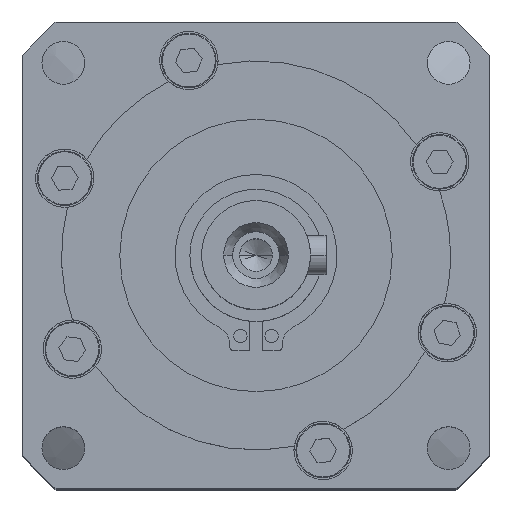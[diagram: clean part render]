
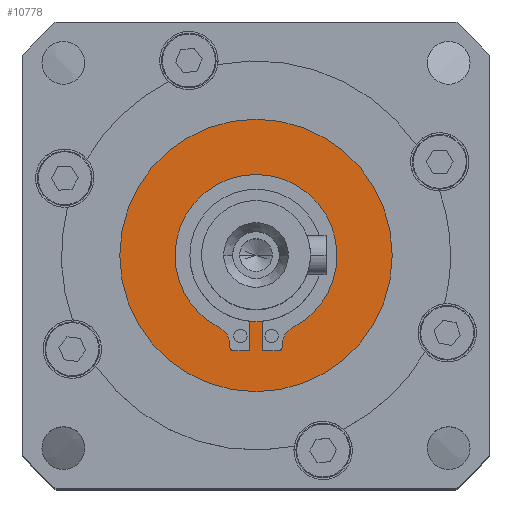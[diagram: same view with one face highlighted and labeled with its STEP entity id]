
A CAD part, top view. The second image highlights one B-rep face of the part: STEP entity #10778.
In plain terms, the highlighted planar face has unit normal (0, 0, 1).
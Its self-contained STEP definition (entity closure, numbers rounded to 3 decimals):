
#607 = VERTEX_POINT ( 'NONE', #50801 ) ;
#1131 = VERTEX_POINT ( 'NONE', #7844 ) ;
#1490 = EDGE_CURVE ( 'NONE', #27664, #27565, #51751, .T. ) ;
#1606 = EDGE_CURVE ( 'NONE', #49962, #17431, #15683, .T. ) ;
#2491 = CARTESIAN_POINT ( 'NONE',  ( 0., 0., -1. ) ) ;
#2612 = EDGE_CURVE ( 'NONE', #35117, #49962, #28156, .T. ) ;
#2907 = CARTESIAN_POINT ( 'NONE',  ( 0., 0., -1. ) ) ;
#3063 = EDGE_CURVE ( 'NONE', #15275, #45962, #26241, .T. ) ;
#3856 = VERTEX_POINT ( 'NONE', #45359 ) ;
#4069 = CARTESIAN_POINT ( 'NONE',  ( 4.716, -9.269, -1. ) ) ;
#4182 = DIRECTION ( 'NONE',  ( -1., 0., 0. ) ) ;
#4289 = DIRECTION ( 'NONE',  ( 0., 0., 1. ) ) ;
#4348 = VERTEX_POINT ( 'NONE', #13745 ) ;
#4349 = CARTESIAN_POINT ( 'NONE',  ( 0., 0., -1. ) ) ;
#4474 = AXIS2_PLACEMENT_3D ( 'NONE', #2491, #30417, #6512 ) ;
#4655 = ORIENTED_EDGE ( 'NONE', *, *, #1490, .T. ) ;
#5163 = CIRCLE ( 'NONE', #9509, 17.5 ) ;
#5442 = CARTESIAN_POINT ( 'NONE',  ( -0.85, 0., -1. ) ) ;
#6428 = EDGE_CURVE ( 'NONE', #28895, #15275, #50129, .T. ) ;
#6512 = DIRECTION ( 'NONE',  ( -1., 0., 0. ) ) ;
#6939 = DIRECTION ( 'NONE',  ( -1., 0., 0. ) ) ;
#7603 = CARTESIAN_POINT ( 'NONE',  ( 3.35, -11.497, -1. ) ) ;
#7718 = CARTESIAN_POINT ( 'NONE',  ( 17.5, 0., -1. ) ) ;
#7844 = CARTESIAN_POINT ( 'NONE',  ( -4.716, -9.269, -1. ) ) ;
#8493 = CARTESIAN_POINT ( 'NONE',  ( -2.85, -11.757, -1. ) ) ;
#8513 = CARTESIAN_POINT ( 'NONE',  ( 3.35, 0., -1. ) ) ;
#8585 = DIRECTION ( 'NONE',  ( 1., 0., 0. ) ) ;
#8789 = CIRCLE ( 'NONE', #44361, 2.5 ) ;
#9509 = AXIS2_PLACEMENT_3D ( 'NONE', #37870, #13749, #41965 ) ;
#9731 = FACE_OUTER_BOUND ( 'NONE', #38376, .T. ) ;
#10277 = ORIENTED_EDGE ( 'NONE', *, *, #28766, .F. ) ;
#10498 = CIRCLE ( 'NONE', #47524, 0.5 ) ;
#10617 = CARTESIAN_POINT ( 'NONE',  ( -2.85, -12.257, -1. ) ) ;
#10778 = ADVANCED_FACE ( 'NONE', ( #40548, #9731 ), #18251, .F. ) ;
#10957 = VECTOR ( 'NONE', #17358, 1000. ) ;
#12038 = CARTESIAN_POINT ( 'NONE',  ( 2.85, -11.757, -1. ) ) ;
#12443 = EDGE_CURVE ( 'NONE', #41873, #3856, #21486, .T. ) ;
#12481 = DIRECTION ( 'NONE',  ( -1., 0., 0. ) ) ;
#12492 = DIRECTION ( 'NONE',  ( 0., 1., 0. ) ) ;
#13745 = CARTESIAN_POINT ( 'NONE',  ( -3.35, -11.497, -1. ) ) ;
#13749 = DIRECTION ( 'NONE',  ( 0., 0., 1. ) ) ;
#14287 = EDGE_CURVE ( 'NONE', #50091, #25168, #20727, .T. ) ;
#14435 = CIRCLE ( 'NONE', #51099, 10.4 ) ;
#15275 = VERTEX_POINT ( 'NONE', #4069 ) ;
#15316 = DIRECTION ( 'NONE',  ( 0., -1., 0. ) ) ;
#15683 = LINE ( 'NONE', #25941, #46696 ) ;
#15972 = DIRECTION ( 'NONE',  ( -1., 0., 0. ) ) ;
#15986 = CARTESIAN_POINT ( 'NONE',  ( -17.5, 0., -1. ) ) ;
#16084 = CARTESIAN_POINT ( 'NONE',  ( 0., 0., -1. ) ) ;
#16106 = CARTESIAN_POINT ( 'NONE',  ( 0.85, 0., -1. ) ) ;
#17358 = DIRECTION ( 'NONE',  ( 0., 1., 0. ) ) ;
#17431 = VERTEX_POINT ( 'NONE', #48743 ) ;
#18207 = VECTOR ( 'NONE', #49736, 1000. ) ;
#18251 = PLANE ( 'NONE',  #4474 ) ;
#18399 = ORIENTED_EDGE ( 'NONE', *, *, #6428, .F. ) ;
#18997 = CARTESIAN_POINT ( 'NONE',  ( -3.35, -11.757, -1. ) ) ;
#19623 = AXIS2_PLACEMENT_3D ( 'NONE', #4349, #4289, #4182 ) ;
#20097 = DIRECTION ( 'NONE',  ( -1., 0., 0. ) ) ;
#20230 = EDGE_CURVE ( 'NONE', #17431, #607, #10498, .T. ) ;
#20305 = CARTESIAN_POINT ( 'NONE',  ( 0.85, -8.457, -1. ) ) ;
#20306 = ORIENTED_EDGE ( 'NONE', *, *, #28475, .F. ) ;
#20353 = CARTESIAN_POINT ( 'NONE',  ( 0., -12.257, -1. ) ) ;
#20727 = CIRCLE ( 'NONE', #23866, 0.5 ) ;
#21321 = ORIENTED_EDGE ( 'NONE', *, *, #29721, .F. ) ;
#21486 = LINE ( 'NONE', #5442, #10957 ) ;
#21735 = CARTESIAN_POINT ( 'NONE',  ( -5.85, -11.497, -1. ) ) ;
#21793 = DIRECTION ( 'NONE',  ( 0., 0., 1. ) ) ;
#21927 = DIRECTION ( 'NONE',  ( -1., 0., 0. ) ) ;
#22282 = DIRECTION ( 'NONE',  ( 0., 0., -1. ) ) ;
#23189 = LINE ( 'NONE', #8513, #24443 ) ;
#23303 = EDGE_CURVE ( 'NONE', #25168, #41873, #30294, .T. ) ;
#23698 = CARTESIAN_POINT ( 'NONE',  ( 5.85, -11.497, -1. ) ) ;
#23866 = AXIS2_PLACEMENT_3D ( 'NONE', #8493, #36529, #12481 ) ;
#23973 = ORIENTED_EDGE ( 'NONE', *, *, #45563, .F. ) ;
#24443 = VECTOR ( 'NONE', #12492, 1000. ) ;
#25168 = VERTEX_POINT ( 'NONE', #10617 ) ;
#25775 = DIRECTION ( 'NONE',  ( -1., 0., 0. ) ) ;
#25880 = EDGE_CURVE ( 'NONE', #27565, #27664, #5163, .T. ) ;
#25893 = ORIENTED_EDGE ( 'NONE', *, *, #3063, .F. ) ;
#25941 = CARTESIAN_POINT ( 'NONE',  ( 0., -12.257, -1. ) ) ;
#26033 = CARTESIAN_POINT ( 'NONE',  ( 0.85, -12.257, -1. ) ) ;
#26241 = CIRCLE ( 'NONE', #19623, 10.4 ) ;
#27565 = VERTEX_POINT ( 'NONE', #7718 ) ;
#27664 = VERTEX_POINT ( 'NONE', #15986 ) ;
#28156 = LINE ( 'NONE', #16106, #51057 ) ;
#28324 = CARTESIAN_POINT ( 'NONE',  ( 10.4, 0., -1. ) ) ;
#28475 = EDGE_CURVE ( 'NONE', #607, #28895, #23189, .T. ) ;
#28516 = ORIENTED_EDGE ( 'NONE', *, *, #23303, .F. ) ;
#28766 = EDGE_CURVE ( 'NONE', #33504, #1131, #14435, .T. ) ;
#28895 = VERTEX_POINT ( 'NONE', #7603 ) ;
#28981 = AXIS2_PLACEMENT_3D ( 'NONE', #46089, #21793, #50159 ) ;
#29405 = CIRCLE ( 'NONE', #28981, 8.5 ) ;
#29721 = EDGE_CURVE ( 'NONE', #3856, #35117, #29405, .T. ) ;
#30106 = EDGE_CURVE ( 'NONE', #1131, #4348, #8789, .T. ) ;
#30294 = LINE ( 'NONE', #20353, #50616 ) ;
#30417 = DIRECTION ( 'NONE',  ( 0., 0., -1. ) ) ;
#30838 = DIRECTION ( 'NONE',  ( 0., 0., 1. ) ) ;
#30904 = ORIENTED_EDGE ( 'NONE', *, *, #30106, .F. ) ;
#33429 = CIRCLE ( 'NONE', #40838, 10.4 ) ;
#33504 = VERTEX_POINT ( 'NONE', #47799 ) ;
#33982 = ORIENTED_EDGE ( 'NONE', *, *, #12443, .F. ) ;
#34665 = ORIENTED_EDGE ( 'NONE', *, *, #25880, .T. ) ;
#35086 = DIRECTION ( 'NONE',  ( 1., 0., 0. ) ) ;
#35117 = VERTEX_POINT ( 'NONE', #20305 ) ;
#35143 = DIRECTION ( 'NONE',  ( 0., 0., 1. ) ) ;
#35152 = CARTESIAN_POINT ( 'NONE',  ( 0., 0., -1. ) ) ;
#35772 = ORIENTED_EDGE ( 'NONE', *, *, #1606, .F. ) ;
#36529 = DIRECTION ( 'NONE',  ( 0., 0., 1. ) ) ;
#37870 = CARTESIAN_POINT ( 'NONE',  ( 0., 0., -1. ) ) ;
#38376 = EDGE_LOOP ( 'NONE', ( #34665, #4655 ) ) ;
#39220 = ORIENTED_EDGE ( 'NONE', *, *, #46791, .F. ) ;
#39661 = CARTESIAN_POINT ( 'NONE',  ( -0.85, -12.257, -1. ) ) ;
#40175 = DIRECTION ( 'NONE',  ( 0., 0., 1. ) ) ;
#40548 = FACE_BOUND ( 'NONE', #47891, .T. ) ;
#40838 = AXIS2_PLACEMENT_3D ( 'NONE', #16084, #44392, #20097 ) ;
#40964 = AXIS2_PLACEMENT_3D ( 'NONE', #35152, #35143, #35086 ) ;
#40965 = AXIS2_PLACEMENT_3D ( 'NONE', #23698, #22282, #21927 ) ;
#41873 = VERTEX_POINT ( 'NONE', #39661 ) ;
#41875 = DIRECTION ( 'NONE',  ( 1., 0., 0. ) ) ;
#41965 = DIRECTION ( 'NONE',  ( 1., 0., 0. ) ) ;
#42736 = ORIENTED_EDGE ( 'NONE', *, *, #20230, .F. ) ;
#44361 = AXIS2_PLACEMENT_3D ( 'NONE', #21735, #50101, #25775 ) ;
#44392 = DIRECTION ( 'NONE',  ( 0., 0., 1. ) ) ;
#45359 = CARTESIAN_POINT ( 'NONE',  ( -0.85, -8.457, -1. ) ) ;
#45563 = EDGE_CURVE ( 'NONE', #45962, #33504, #33429, .T. ) ;
#45962 = VERTEX_POINT ( 'NONE', #28324 ) ;
#46089 = CARTESIAN_POINT ( 'NONE',  ( 0., 0., -1. ) ) ;
#46696 = VECTOR ( 'NONE', #41875, 1000. ) ;
#46791 = EDGE_CURVE ( 'NONE', #4348, #50091, #51782, .T. ) ;
#47524 = AXIS2_PLACEMENT_3D ( 'NONE', #12038, #40175, #15972 ) ;
#47799 = CARTESIAN_POINT ( 'NONE',  ( -10.4, 0., -1. ) ) ;
#47891 = EDGE_LOOP ( 'NONE', ( #28516, #48107, #39220, #30904, #10277, #23973, #25893, #18399, #20306, #42736, #35772, #48544, #21321, #33982 ) ) ;
#48107 = ORIENTED_EDGE ( 'NONE', *, *, #14287, .F. ) ;
#48544 = ORIENTED_EDGE ( 'NONE', *, *, #2612, .F. ) ;
#48743 = CARTESIAN_POINT ( 'NONE',  ( 2.85, -12.257, -1. ) ) ;
#49569 = CARTESIAN_POINT ( 'NONE',  ( -3.35, 0., -1. ) ) ;
#49736 = DIRECTION ( 'NONE',  ( 0., -1., 0. ) ) ;
#49962 = VERTEX_POINT ( 'NONE', #26033 ) ;
#50091 = VERTEX_POINT ( 'NONE', #18997 ) ;
#50101 = DIRECTION ( 'NONE',  ( 0., 0., -1. ) ) ;
#50129 = CIRCLE ( 'NONE', #40965, 2.5 ) ;
#50159 = DIRECTION ( 'NONE',  ( -1., 0., 0. ) ) ;
#50616 = VECTOR ( 'NONE', #8585, 1000. ) ;
#50801 = CARTESIAN_POINT ( 'NONE',  ( 3.35, -11.757, -1. ) ) ;
#51057 = VECTOR ( 'NONE', #15316, 1000. ) ;
#51099 = AXIS2_PLACEMENT_3D ( 'NONE', #2907, #30838, #6939 ) ;
#51751 = CIRCLE ( 'NONE', #40964, 17.5 ) ;
#51782 = LINE ( 'NONE', #49569, #18207 ) ;
